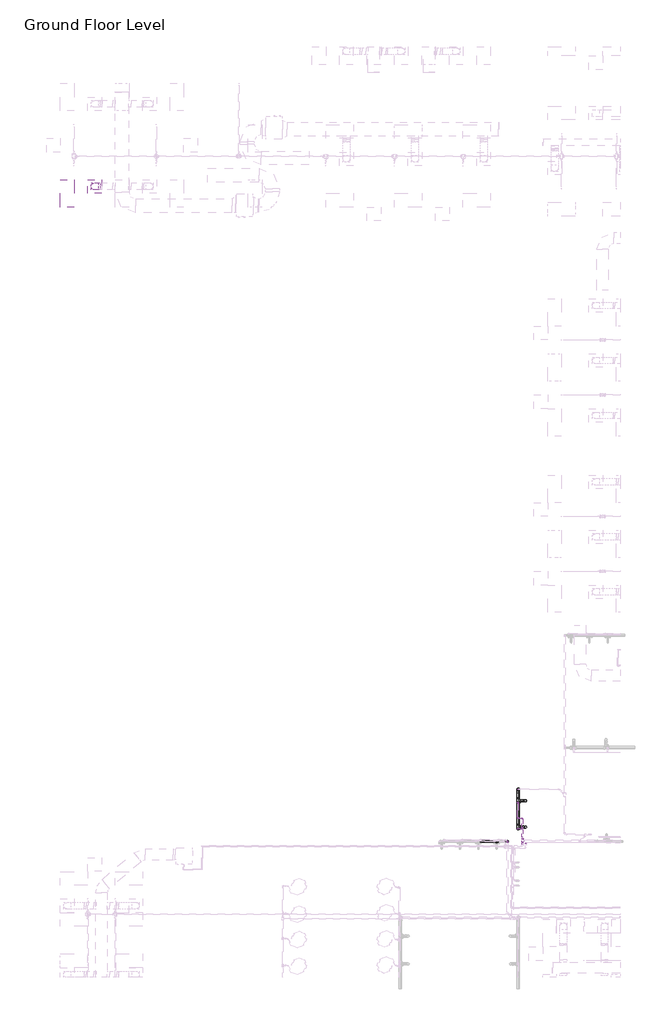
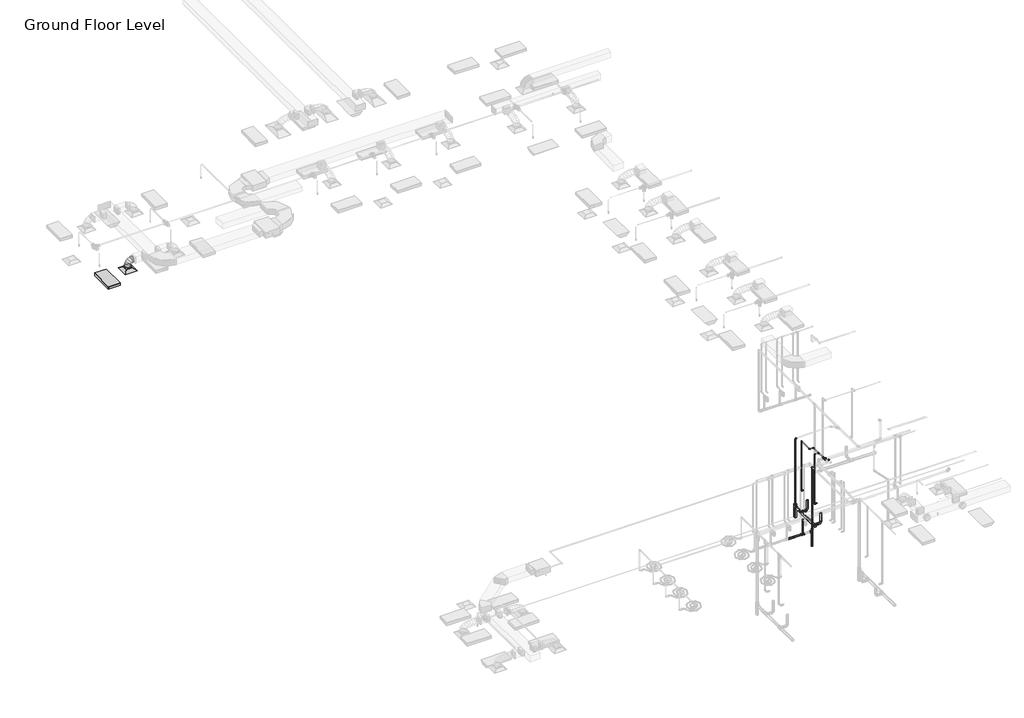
# One storey, part 9 of 66: 24 pipe segments, 23 pipe fittings, 1 air terminal, 1 duct fitting, 1 duct segment, 1 light fixture.
"""IFC4 building model written with IfcOpenShell, lengths in millimetres."""

from ifc_helpers import new_model, si_unit, point, frame, frame_2d, origin, place, context, project, spatial, circle_curve, ellipse_curve, trimmed, segment, composite_curve, outline, extrude, transform, mapped, element, save
from ifc_brep_helpers import plane_surface, cylinder_surface, advanced_brep
from components import m_return_diffuser_600_x_600_face_300_x_300_connection_ff221211, m_rectangular_to_round_transition_angle_45_degree_641efff0, m_troffer_light_parabolic_rectangular1_0600x1200mm_4_lamp_86473d4a, m_bend_pvc_sch_40_dwv_standard_a4b99d37, m_bend_pvc_sch_40_dwv_standard_1e7bdcc1, m_bend_pvc_sch_40_dwv_standard_877aed9a, m_bend_pvc_sch_40_dwv_standard_aca7b112, m_plug_pvc_sch_40_dwv_standard_6c40de1c, m_reducer_pvc_sch_40_dwv_standard_19331f3d, m_reducer_pvc_sch_40_dwv_standard_b84ad399, m_tee_reducing_sanitary_pvc_sch_40_dwv_standard_b49161a9, m_tee_reducing_sanitary_pvc_sch_40_dwv_standard_21d2848c, m_tee_reducing_sanitary_pvc_sch_40_dwv_standard_b574f8c1, m_tee_reducing_sanitary_pvc_sch_40_dwv_standard_749dcb00, standard_517a5a8d, standard_72b35c3b, standard_cd25fed3, standard_f1337950

model = new_model("IFC4")

# Units and contexts
model_context = context("Model", 3, world=origin())
ifc_project = project(units=[si_unit("LENGTHUNIT", "METRE", prefix="MILLI")], contexts=[model_context])

# Site, building, storey
site = spatial("IfcSite", under=ifc_project)
building = spatial("IfcBuilding", under=site)
storey = spatial("IfcBuildingStorey", under=building, Name="Ground Floor Level", Elevation=900.0)

# Air terminal
placement = place(None, origin())
m_return_diffuser_600_x_600_face_300_x_300_connection_shape = m_return_diffuser_600_x_600_face_300_x_300_connection_ff221211(model_context)
element("IfcAirTerminal", 1, ObjectType="M_Supply Diffuser : 600 x 600 Face 300 x 300 Connection", at=placement, inside=storey, context=model_context, shape_type="MappedRepresentation", body=[
    mapped(m_return_diffuser_600_x_600_face_300_x_300_connection_shape, transform((-19137.2327605, -4264.7846466, 3650.0), x_axis=(1.0, 0.0, 0.0), y_axis=(0.0, 1.0, 0.0), z_axis=(0.0, 0.0, 1.0))),
])

# Duct fitting
m_rectangular_to_round_transition_angle_45_degree_shape = m_rectangular_to_round_transition_angle_45_degree_641efff0(model_context)
element("IfcDuctFitting", 2, ObjectType="M_Rectangular to Round Transition - Angle : 45 Degree", at=placement, inside=storey, context=model_context, shape_type="MappedRepresentation", body=[
    mapped(m_rectangular_to_round_transition_angle_45_degree_shape, transform((-19137.2327605, -4264.7846466, 3751.6), x_axis=(0.0, 0.0, 1.0), y_axis=(-1.0, 0.0, 0.0), z_axis=(0.0, -1.0, 0.0))),
])

# Duct segment
element("IfcDuctSegment", 3, ObjectType="Flex - Round", at=placement, inside=storey, context=model_context, shape_type="AdvancedBrep", body=[
    advanced_brep(
    [(-18987.2327605, -4264.7846466, 3826.6), (-19137.2327605, -4414.7846466, 3826.6), (-19287.2327605, -4264.7846466, 3826.6), (-19137.2327605, -4114.7846466, 3826.6), (-18987.2327605, -4264.7846466, 3832.5806494), (-19137.2327605, -4414.7846466, 3854.3870846), (-19287.2327605, -4264.7846466, 3876.1935198), (-19137.2327605, -4114.7846466, 3854.3870846), (-18983.2864584, -4264.7846466, 3845.866521), (-19122.8954468, -4414.7846466, 3902.6559964), (-19262.5044353, -4264.7846466, 3959.4454718), (-19122.8954468, -4114.7846466, 3902.6559964), (-18960.1038556, -4264.7846466, 3889.9713348), (-19084.1273946, -4414.7846466, 3976.4120685), (-19208.1509336, -4264.7846466, 4062.8528022), (-19084.1273946, -4114.7846466, 3976.4120685), (-18929.3324827, -4264.7846466, 3924.1186367), (-19027.2944369, -4414.7846466, 4039.4801732), (-19125.2563911, -4264.7846466, 4154.8417097), (-19027.2944369, -4114.7846466, 4039.4801732), (-18889.6598286, -4264.7846466, 3949.5853148), (-18958.7624069, -4414.7846466, 4083.4722675), (-19027.8649852, -4264.7846466, 4217.3592203), (-18958.7624069, -4114.7846466, 4083.4722675), (-18888.6275862, -4264.7846466, 3950.0003085), (-18917.6510814, -4414.7846466, 4100.0003085), (-18946.6745767, -4264.7846466, 4250.0003085), (-18917.6510814, -4114.7846466, 4100.0003085), (-18884.8971378, -4264.7846466, 3950.0003085), (-18884.8971378, -4114.7846466, 4100.0003085), (-18884.8971378, -4264.7846466, 4250.0003085), (-18884.8971378, -4414.7846466, 4100.0003085)],
    [
        (0, 1, circle_curve(frame((-19137.2327605, -4264.7846466, 3826.6), z_axis=(0.0, 0.0, -1.0), x_axis=(1.0, 0.0, 0.0)), 150.0)),
        (1, 2, circle_curve(frame((-19137.2327605, -4264.7846466, 3826.6), z_axis=(0.0, 0.0, -1.0), x_axis=(1.0, 0.0, 0.0)), 150.0)),
        (2, 3, circle_curve(frame((-19137.2327605, -4264.7846466, 3826.6), z_axis=(0.0, 0.0, -1.0), x_axis=(1.0, 0.0, 0.0)), 150.0)),
        (3, 0, circle_curve(frame((-19137.2327605, -4264.7846466, 3826.6), z_axis=(0.0, 0.0, -1.0), x_axis=(1.0, 0.0, 0.0)), 150.0)),
        (0, 4),
        (4, 5, ellipse_curve(frame((-19137.2327605, -4264.7846466, 3854.3870846), z_axis=(-0.14386395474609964, 0.0, -0.9895974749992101), x_axis=(0.9895974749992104, 0.0, -0.14386395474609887)), 151.5767813, 150.0)),
        (5, 1),
        (5, 6, ellipse_curve(frame((-19137.2327605, -4264.7846466, 3854.3870846), z_axis=(-0.14386395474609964, 0.0, -0.9895974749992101), x_axis=(0.9895974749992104, 0.0, -0.14386395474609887)), 151.5767813, 150.0)),
        (6, 2),
        (6, 7, ellipse_curve(frame((-19137.2327605, -4264.7846466, 3854.3870846), z_axis=(-0.14386395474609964, 0.0, -0.9895974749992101), x_axis=(0.9895974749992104, 0.0, -0.14386395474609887)), 151.5767813, 150.0)),
        (7, 3),
        (7, 4, ellipse_curve(frame((-19137.2327605, -4264.7846466, 3854.3870846), z_axis=(-0.14386395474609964, 0.0, -0.9895974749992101), x_axis=(0.9895974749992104, 0.0, -0.14386395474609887)), 151.5767813, 150.0)),
        (4, 8),
        (8, 9, ellipse_curve(frame((-19122.8954468, -4264.7846466, 3902.6559964), z_axis=(-0.376794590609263, 0.0, -0.9262968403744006), x_axis=(0.9262968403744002, 0.0, -0.37679459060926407)), 150.717332, 150.0)),
        (9, 5),
        (9, 10, ellipse_curve(frame((-19122.8954468, -4264.7846466, 3902.6559964), z_axis=(-0.376794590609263, 0.0, -0.9262968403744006), x_axis=(0.9262968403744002, 0.0, -0.37679459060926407)), 150.717332, 150.0)),
        (10, 6),
        (10, 11, ellipse_curve(frame((-19122.8954468, -4264.7846466, 3902.6559964), z_axis=(-0.376794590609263, 0.0, -0.9262968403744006), x_axis=(0.9262968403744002, 0.0, -0.37679459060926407)), 150.717332, 150.0)),
        (11, 7),
        (11, 8, ellipse_curve(frame((-19122.8954468, -4264.7846466, 3902.6559964), z_axis=(-0.376794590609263, 0.0, -0.9262968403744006), x_axis=(0.9262968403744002, 0.0, -0.37679459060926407)), 150.717332, 150.0)),
        (8, 12),
        (12, 13, ellipse_curve(frame((-19084.1273946, -4264.7846466, 3976.4120685), z_axis=(-0.5717930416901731, 0.0, -0.8203979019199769), x_axis=(0.8203979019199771, 0.0, -0.5717930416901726)), 151.1748612, 150.0)),
        (13, 9),
        (13, 14, ellipse_curve(frame((-19084.1273946, -4264.7846466, 3976.4120685), z_axis=(-0.5717930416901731, 0.0, -0.8203979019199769), x_axis=(0.8203979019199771, 0.0, -0.5717930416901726)), 151.1748612, 150.0)),
        (14, 10),
        (14, 15, ellipse_curve(frame((-19084.1273946, -4264.7846466, 3976.4120685), z_axis=(-0.5717930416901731, 0.0, -0.8203979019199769), x_axis=(0.8203979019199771, 0.0, -0.5717930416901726)), 151.1748612, 150.0)),
        (15, 11),
        (15, 12, ellipse_curve(frame((-19084.1273946, -4264.7846466, 3976.4120685), z_axis=(-0.5717930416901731, 0.0, -0.8203979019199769), x_axis=(0.8203979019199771, 0.0, -0.5717930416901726)), 151.1748612, 150.0)),
        (12, 16),
        (16, 17, ellipse_curve(frame((-19027.2944369, -4264.7846466, 4039.4801732), z_axis=(-0.7622501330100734, 0.0, -0.6472825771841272), x_axis=(0.6472825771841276, 0.0, -0.7622501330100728)), 151.3434127, 150.0)),
        (17, 13),
        (17, 18, ellipse_curve(frame((-19027.2944369, -4264.7846466, 4039.4801732), z_axis=(-0.7622501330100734, 0.0, -0.6472825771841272), x_axis=(0.6472825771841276, 0.0, -0.7622501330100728)), 151.3434127, 150.0)),
        (18, 14),
        (18, 19, ellipse_curve(frame((-19027.2944369, -4264.7846466, 4039.4801732), z_axis=(-0.7622501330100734, 0.0, -0.6472825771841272), x_axis=(0.6472825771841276, 0.0, -0.7622501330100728)), 151.3434127, 150.0)),
        (19, 15),
        (19, 16, ellipse_curve(frame((-19027.2944369, -4264.7846466, 4039.4801732), z_axis=(-0.7622501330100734, 0.0, -0.6472825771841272), x_axis=(0.6472825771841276, 0.0, -0.7622501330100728)), 151.3434127, 150.0)),
        (16, 20),
        (20, 21, ellipse_curve(frame((-18958.7624069, -4264.7846466, 4083.4722675), z_axis=(-0.8886216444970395, 0.0, -0.45864100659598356), x_axis=(0.45864100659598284, 0.0, -0.88862164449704)), 150.6681202, 150.0)),
        (21, 17),
        (21, 22, ellipse_curve(frame((-18958.7624069, -4264.7846466, 4083.4722675), z_axis=(-0.8886216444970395, 0.0, -0.45864100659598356), x_axis=(0.45864100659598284, 0.0, -0.88862164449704)), 150.6681202, 150.0)),
        (22, 18),
        (22, 23, ellipse_curve(frame((-18958.7624069, -4264.7846466, 4083.4722675), z_axis=(-0.8886216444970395, 0.0, -0.45864100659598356), x_axis=(0.45864100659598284, 0.0, -0.88862164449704)), 150.6681202, 150.0)),
        (23, 19),
        (23, 20, ellipse_curve(frame((-18958.7624069, -4264.7846466, 4083.4722675), z_axis=(-0.8886216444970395, 0.0, -0.45864100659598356), x_axis=(0.45864100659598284, 0.0, -0.88862164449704)), 150.6681202, 150.0)),
        (20, 24),
        (24, 25, ellipse_curve(frame((-18917.6510814, -4264.7846466, 4100.0003085), z_axis=(-0.9817905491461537, 0.0, -0.18996662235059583), x_axis=(0.18996662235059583, 0.0, -0.9817905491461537)), 152.7820777, 150.0)),
        (25, 21),
        (25, 26, ellipse_curve(frame((-18917.6510814, -4264.7846466, 4100.0003085), z_axis=(-0.9817905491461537, 0.0, -0.18996662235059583), x_axis=(0.18996662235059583, 0.0, -0.9817905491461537)), 152.7820777, 150.0)),
        (26, 22),
        (26, 27, ellipse_curve(frame((-18917.6510814, -4264.7846466, 4100.0003085), z_axis=(-0.9817905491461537, 0.0, -0.18996662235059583), x_axis=(0.18996662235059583, 0.0, -0.9817905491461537)), 152.7820777, 150.0)),
        (27, 23),
        (27, 24, ellipse_curve(frame((-18917.6510814, -4264.7846466, 4100.0003085), z_axis=(-0.9817905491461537, 0.0, -0.18996662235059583), x_axis=(0.18996662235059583, 0.0, -0.9817905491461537)), 152.7820777, 150.0)),
        (28, 29, circle_curve(frame((-18884.8971378, -4264.7846466, 4100.0003085), z_axis=(1.0, 0.0, 0.0), x_axis=(0.0, 0.0, -1.0)), 150.0)),
        (29, 30, circle_curve(frame((-18884.8971378, -4264.7846466, 4100.0003085), z_axis=(1.0, 0.0, 0.0), x_axis=(0.0, 0.0, -1.0)), 150.0)),
        (30, 31, circle_curve(frame((-18884.8971378, -4264.7846466, 4100.0003085), z_axis=(1.0, 0.0, 0.0), x_axis=(0.0, 0.0, -1.0)), 150.0)),
        (31, 28, circle_curve(frame((-18884.8971378, -4264.7846466, 4100.0003085), z_axis=(1.0, 0.0, 0.0), x_axis=(0.0, 0.0, -1.0)), 150.0)),
        (24, 28),
        (31, 25),
        (30, 26),
        (29, 27),
    ],
    [
        plane_surface(frame((-19137.2327605, -4414.7846466, 3826.6), z_axis=(0.0, 0.0, -1.0), x_axis=(1.0, 0.0, 0.0))),
        cylinder_surface(frame((-19137.2327605, -4264.7846466, 3826.6), z_axis=(0.0, 0.0, -1.0), x_axis=(1.0, 0.0, 0.0)), 150.0),
        cylinder_surface(frame((-19137.2327605, -4264.7846466, 3854.3870846), z_axis=(-0.28473481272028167, 0.0, -0.9586063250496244), x_axis=(0.9586063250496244, 0.0, -0.28473481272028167)), 150.0),
        cylinder_surface(frame((-19122.8954468, -4264.7846466, 3902.6559964), z_axis=(-0.4652676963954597, 0.0, -0.8851700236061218), x_axis=(0.8851700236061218, 0.0, -0.4652676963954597)), 150.0),
        cylinder_surface(frame((-19084.1273946, -4264.7846466, 3976.4120685), z_axis=(-0.6694309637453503, 0.0, -0.7428742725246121), x_axis=(0.7428742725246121, 0.0, -0.6694309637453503)), 150.0),
        cylinder_surface(frame((-19027.2944369, -4264.7846466, 4039.4801732), z_axis=(-0.8415369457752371, 0.0, -0.5401995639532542), x_axis=(0.5401995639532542, 0.0, -0.8415369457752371)), 150.0),
        cylinder_surface(frame((-18958.7624069, -4264.7846466, 4083.4722675), z_axis=(-0.9278253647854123, 0.0, -0.37301486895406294), x_axis=(0.37301486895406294, 0.0, -0.9278253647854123)), 150.0),
        plane_surface(frame((-18884.8971378, -4264.7846466, 3950.0003085), z_axis=(1.0, 0.0, 0.0), x_axis=(0.0, 1.0, 0.0))),
        cylinder_surface(frame((-18917.6510814, -4264.7846466, 4100.0003085), z_axis=(-1.0, 0.0, 0.0), x_axis=(0.0, 0.0, -1.0)), 150.0),
    ],
    [
        (0, [[1, 2, 3, 4]]),
        (1, [[-1, 5, 6, 7]]),
        (1, [[-2, -7, 8, 9]]),
        (1, [[-3, -9, 10, 11]]),
        (1, [[-4, -11, 12, -5]]),
        (2, [[-6, 13, 14, 15]]),
        (2, [[-8, -15, 16, 17]]),
        (2, [[-10, -17, 18, 19]]),
        (2, [[-12, -19, 20, -13]]),
        (3, [[-14, 21, 22, 23]]),
        (3, [[-16, -23, 24, 25]]),
        (3, [[-18, -25, 26, 27]]),
        (3, [[-20, -27, 28, -21]]),
        (4, [[-22, 29, 30, 31]]),
        (4, [[-24, -31, 32, 33]]),
        (4, [[-26, -33, 34, 35]]),
        (4, [[-28, -35, 36, -29]]),
        (5, [[-30, 37, 38, 39]]),
        (5, [[-32, -39, 40, 41]]),
        (5, [[-34, -41, 42, 43]]),
        (5, [[-36, -43, 44, -37]]),
        (6, [[-38, 45, 46, 47]]),
        (6, [[-40, -47, 48, 49]]),
        (6, [[-42, -49, 50, 51]]),
        (6, [[-44, -51, 52, -45]]),
        (7, [[53, 54, 55, 56]]),
        (8, [[-46, 57, -56, 58]]),
        (8, [[-48, -58, -55, 59]]),
        (8, [[-50, -59, -54, 60]]),
        (8, [[-52, -60, -53, -57]]),
    ],
),
])

# Light fixture
m_troffer_light_parabolic_rectangular1_0600x1200mm_4_lamp_shape = m_troffer_light_parabolic_rectangular1_0600x1200mm_4_lamp_86473d4a(model_context)
element("IfcLightFixture", 4, ObjectType="M_Troffer Light - Parabolic Rectangular1 : 0600x1200mm(4 Lamp) - 277V 2", at=placement, inside=storey, context=model_context, shape_type="MappedRepresentation", body=[
    mapped(m_troffer_light_parabolic_rectangular1_0600x1200mm_4_lamp_shape, transform((-20396.6986926, -4546.081145, 3650.0), x_axis=(0.0, 1.0, 0.0), y_axis=(-1.0, 0.0, 0.0), z_axis=(0.0, 0.0, 1.0))),
])

# Pipe fittings
m_bend_pvc_sch_40_dwv_standard_shape = m_bend_pvc_sch_40_dwv_standard_a4b99d37(model_context)
element("IfcPipeFitting", 5, ObjectType="M_Bend - PVC - Sch 40 - DWV : Standard", at=placement, inside=storey, context=model_context, shape_type="MappedRepresentation", body=[
    mapped(m_bend_pvc_sch_40_dwv_standard_shape, transform((-313.6900632, -31081.5465789, 464.3982101), x_axis=(0.0, 0.0, -1.0), y_axis=(-1.0, 0.0, 0.0), z_axis=(0.0, 1.0, 0.0))),
])
element("IfcPipeFitting", 6, ObjectType="M_Bend - PVC - Sch 40 - DWV : Standard", at=placement, inside=storey, context=model_context, shape_type="MappedRepresentation", body=[
    mapped(m_bend_pvc_sch_40_dwv_standard_shape, transform((-303.6900633, -32234.266625, 475.9254106), x_axis=(0.0, 0.0, -1.0), y_axis=(-1.0, 0.0, 0.0), z_axis=(0.0, 1.0, 0.0))),
])
m_bend_pvc_sch_40_dwv_standard_2_shape = m_bend_pvc_sch_40_dwv_standard_1e7bdcc1(model_context)
element("IfcPipeFitting", 7, ObjectType="M_Bend - PVC - Sch 40 - DWV : Standard", at=placement, inside=storey, context=model_context, shape_type="MappedRepresentation", body=[
    mapped(m_bend_pvc_sch_40_dwv_standard_2_shape, transform((-1573.215321, -32858.7119065, 1488.3035905), x_axis=(0.0, 0.9999500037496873, -0.009999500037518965), y_axis=(0.0, -0.009999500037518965, -0.9999500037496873), z_axis=(-1.0, 0.0, 0.0))),
])
m_bend_pvc_sch_40_dwv_standard_3_shape = m_bend_pvc_sch_40_dwv_standard_877aed9a(model_context)
element("IfcPipeFitting", 8, ObjectType="M_Bend - PVC - Sch 40 - DWV : Standard", at=placement, inside=storey, context=model_context, shape_type="MappedRepresentation", body=[
    mapped(m_bend_pvc_sch_40_dwv_standard_3_shape, transform((-1099.4034743, -32858.7119242, 4127.038), x_axis=(0.0, 0.0, 1.0), y_axis=(0.0, -1.0, 0.0), z_axis=(1.0, 0.0, 0.0))),
])
m_bend_pvc_sch_40_dwv_standard_4_shape = m_bend_pvc_sch_40_dwv_standard_aca7b112(model_context)
element("IfcPipeFitting", 9, ObjectType="M_Bend - PVC - Sch 40 - DWV : Standard", at=placement, inside=storey, context=model_context, shape_type="MappedRepresentation", body=[
    mapped(m_bend_pvc_sch_40_dwv_standard_4_shape, transform((-633.5363684, -30581.7541446, 4084.0463877), x_axis=(0.0, 0.0, 1.0), y_axis=(1.0, 0.0, 0.0), z_axis=(0.0, 1.0, 0.0))),
])
m_plug_pvc_sch_40_dwv_standard_shape = m_plug_pvc_sch_40_dwv_standard_6c40de1c(model_context)
element("IfcPipeFitting", 10, ObjectType="M_Plug - PVC - Sch 40 - DWV : Standard", at=placement, inside=storey, context=model_context, shape_type="MappedRepresentation", body=[
    mapped(m_plug_pvc_sch_40_dwv_standard_shape, transform((-633.5600391, -32323.1621803, 476.8143661), x_axis=(0.0, -0.9999500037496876, 0.009999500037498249), y_axis=(1.0000000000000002, 0.0, 0.0), z_axis=(0.0, 0.009999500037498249, 0.9999500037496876))),
])
m_reducer_pvc_sch_40_dwv_standard_shape = m_reducer_pvc_sch_40_dwv_standard_19331f3d(model_context)
element("IfcPipeFitting", 11, ObjectType="M_Reducer - PVC - Sch 40 - DWV : Standard", at=placement, inside=storey, context=model_context, shape_type="MappedRepresentation", body=[
    mapped(m_reducer_pvc_sch_40_dwv_standard_shape, transform((-633.5600391, -30581.725568, 578.5642409), x_axis=(0.0, 0.0, 1.0), y_axis=(0.0, 1.0, 0.0), z_axis=(-1.0, 0.0, 0.0))),
])
m_reducer_pvc_sch_40_dwv_standard_2_shape = m_reducer_pvc_sch_40_dwv_standard_b84ad399(model_context)
element("IfcPipeFitting", 12, ObjectType="M_Reducer - PVC - Sch 40 - DWV : Standard", at=placement, inside=storey, context=model_context, shape_type="MappedRepresentation", body=[
    mapped(m_reducer_pvc_sch_40_dwv_standard_2_shape, transform((-1099.4034743, -32858.6819272, 783.2824384), x_axis=(0.0, 0.0, 1.0), y_axis=(-1.0, 0.0, 0.0), z_axis=(0.0, -1.0, 0.0))),
])
m_tee_reducing_sanitary_pvc_sch_40_dwv_standard_shape = m_tee_reducing_sanitary_pvc_sch_40_dwv_standard_b49161a9(model_context)
element("IfcPipeFitting", 13, ObjectType="M_Tee Reducing Sanitary - PVC - Sch 40 - DWV : Standard", at=placement, inside=storey, context=model_context, shape_type="MappedRepresentation", body=[
    mapped(m_tee_reducing_sanitary_pvc_sch_40_dwv_standard_shape, transform((-633.5600391, -31081.5465789, 464.3982101), x_axis=(0.0, -0.9999500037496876, 0.009999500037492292), y_axis=(-1.0, 0.0, 0.0), z_axis=(0.0, -0.009999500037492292, -0.9999500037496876))),
])
element("IfcPipeFitting", 14, ObjectType="M_Tee Reducing Sanitary - PVC - Sch 40 - DWV : Standard", at=placement, inside=storey, context=model_context, shape_type="MappedRepresentation", body=[
    mapped(m_tee_reducing_sanitary_pvc_sch_40_dwv_standard_shape, transform((-633.5600391, -32234.266625, 475.9254106), x_axis=(0.0, -0.9999500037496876, 0.009999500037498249), y_axis=(-1.0000000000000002, 0.0, 0.0), z_axis=(0.0, -0.009999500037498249, -0.9999500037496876))),
])
m_tee_reducing_sanitary_pvc_sch_40_dwv_standard_2_shape = m_tee_reducing_sanitary_pvc_sch_40_dwv_standard_21d2848c(model_context)
element("IfcPipeFitting", 15, ObjectType="M_Tee Reducing Sanitary - PVC - Sch 40 - DWV : Standard", at=placement, inside=storey, context=model_context, shape_type="MappedRepresentation", body=[
    mapped(m_tee_reducing_sanitary_pvc_sch_40_dwv_standard_2_shape, transform((-1573.215321, -32858.7119065, 694.4349821), x_axis=(-0.9999500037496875, 0.0, 0.009999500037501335), y_axis=(-0.009999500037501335, 0.0, -0.9999500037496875), z_axis=(0.0, -1.0, 0.0))),
])
m_tee_reducing_sanitary_pvc_sch_40_dwv_standard_3_shape = m_tee_reducing_sanitary_pvc_sch_40_dwv_standard_b574f8c1(model_context)
element("IfcPipeFitting", 16, ObjectType="M_Tee Reducing Sanitary - PVC - Sch 40 - DWV : Standard", at=placement, inside=storey, context=model_context, shape_type="MappedRepresentation", body=[
    mapped(m_tee_reducing_sanitary_pvc_sch_40_dwv_standard_3_shape, transform((-1099.4034743, -32858.6819272, 689.7), x_axis=(0.0, 0.0, 1.0), y_axis=(1.0, 0.0, 0.0), z_axis=(0.0, 1.0, 0.0))),
])
m_tee_reducing_sanitary_pvc_sch_40_dwv_standard_4_shape = m_tee_reducing_sanitary_pvc_sch_40_dwv_standard_749dcb00(model_context)
element("IfcPipeFitting", 17, ObjectType="M_Tee Reducing Sanitary - PVC - Sch 40 - DWV : Standard", at=placement, inside=storey, context=model_context, shape_type="MappedRepresentation", body=[
    mapped(m_tee_reducing_sanitary_pvc_sch_40_dwv_standard_4_shape, transform((-633.5600391, -30581.725568, 459.4), x_axis=(0.0, 0.0, 1.0), y_axis=(0.0, 1.0, 0.0), z_axis=(-1.0, 0.0, 0.0))),
])
standard_shape = standard_517a5a8d(model_context)
element("IfcPipeFitting", 18, ObjectType="M_Elbow - CPVC - Sch 40 : Standard", at=placement, inside=storey, context=model_context, shape_type="MappedRepresentation", body=[
    mapped(standard_shape, transform((-647.2327605, -31154.9853451, 1655.0), x_axis=(-1.0, 0.0, 0.0), y_axis=(0.0, 0.0, 1.0), z_axis=(0.0, 1.0, 0.0))),
])
element("IfcPipeFitting", 19, ObjectType="M_Elbow - CPVC - Sch 40 : Standard", at=placement, inside=storey, context=model_context, shape_type="MappedRepresentation", body=[
    mapped(standard_shape, transform((-647.2327605, -31154.9853451, 4300.0), x_axis=(0.0, 0.0, 1.0), y_axis=(0.0, -1.0, 0.0), z_axis=(1.0, 0.0, 0.0))),
])
element("IfcPipeFitting", 20, ObjectType="M_Elbow - CPVC - Sch 40 : Standard", at=placement, inside=storey, context=model_context, shape_type="MappedRepresentation", body=[
    mapped(standard_shape, transform((-647.2327605, -31854.9853451, 4300.0), x_axis=(0.0, -1.0, 0.0), y_axis=(1.0, 0.0, 0.0), z_axis=(0.0, 0.0, 1.0))),
])
element("IfcPipeFitting", 21, ObjectType="M_Elbow - CPVC - Sch 40 : Standard", at=placement, inside=storey, context=model_context, shape_type="MappedRepresentation", body=[
    mapped(standard_shape, transform((-447.2327605, -31854.9853451, 4300.0), x_axis=(0.0, 1.0, 0.0), y_axis=(-1.0, 0.0, 0.0), z_axis=(0.0, 0.0, 1.0))),
])
element("IfcPipeFitting", 22, ObjectType="M_Elbow - CPVC - Sch 40 : Standard", at=placement, inside=storey, context=model_context, shape_type="MappedRepresentation", body=[
    mapped(standard_shape, transform((-657.2327605, -32307.7053912, 1655.0), x_axis=(-1.0, 0.0, 0.0), y_axis=(0.0, 0.0, 1.0), z_axis=(0.0, 1.0, 0.0))),
])
element("IfcPipeFitting", 23, ObjectType="M_Elbow - CPVC - Sch 40 : Standard", at=placement, inside=storey, context=model_context, shape_type="MappedRepresentation", body=[
    mapped(standard_shape, transform((-657.2327605, -32307.7053912, 4300.0), x_axis=(0.0, 0.0, 1.0), y_axis=(1.0, 0.0, 0.0), z_axis=(0.0, 1.0, 0.0))),
])
element("IfcPipeFitting", 24, ObjectType="M_Elbow - CPVC - Sch 40 : Standard", at=placement, inside=storey, context=model_context, shape_type="MappedRepresentation", body=[
    mapped(standard_shape, transform((-299.4424198, -32905.870708, 4250.0), x_axis=(-1.0, 0.0, 0.0), y_axis=(0.0, -1.0, 0.0), z_axis=(0.0, 0.0, 1.0))),
])
standard_2_shape = standard_72b35c3b(model_context)
element("IfcPipeFitting", 25, ObjectType="M_Tee - CPVC - Sch 40 : Standard", at=placement, inside=storey, context=model_context, shape_type="MappedRepresentation", body=[
    mapped(standard_2_shape, transform((-447.2327605, -32307.7053912, 4300.0), x_axis=(0.0, 1.0, 0.0), y_axis=(1.0, 0.0, 0.0), z_axis=(0.0, 0.0, -1.0))),
])
standard_3_shape = standard_cd25fed3(model_context)
element("IfcPipeFitting", 26, ObjectType="M_Tee - CPVC - Sch 40 : Standard", at=placement, inside=storey, context=model_context, shape_type="MappedRepresentation", body=[
    mapped(standard_3_shape, transform((-447.2327605, -32824.9853451, 4300.0), x_axis=(0.0, -1.0, 0.0), y_axis=(-1.0, 0.0, 0.0), z_axis=(0.0, 0.0, -1.0))),
])
standard_4_shape = standard_f1337950(model_context)
element("IfcPipeFitting", 27, ObjectType="M_Coupling Reducing - CPVC - Sch 40 : Standard", at=placement, inside=storey, context=model_context, shape_type="MappedRepresentation", body=[
    mapped(standard_4_shape, transform((-447.2327605, -32758.3103451, 4300.0), x_axis=(0.0, 1.0, 0.0), y_axis=(-1.0, 0.0, 0.0), z_axis=(0.0, 0.0, 1.0))),
])

# Pipe segments
element("IfcPipeSegment", 28, ObjectType="CPVC", at=placement, inside=storey, context=model_context, shape_type="SweptSolid", body=[
    extrude(outline(composite_curve([segment(trimmed(circle_curve(frame_2d((-31154.9853451, 1655.0)), 16.7005), [point((-31138.2848451, 1655.0))], [point((-31154.9853451, 1638.2995))], False, "CARTESIAN"), True, "CONTINUOUS"), segment(trimmed(circle_curve(frame_2d((-31154.9853451, 1655.0)), 16.7005), [point((-31154.9853451, 1638.2995))], [point((-31171.6858451, 1655.0))], False, "CARTESIAN"), True, "CONTINUOUS"), segment(trimmed(circle_curve(frame_2d((-31154.9853451, 1655.0)), 16.7005), [point((-31171.6858451, 1655.0))], [point((-31154.9853451, 1671.7005))], False, "CARTESIAN"), True, "CONTINUOUS"), segment(trimmed(circle_curve(frame_2d((-31154.9853451, 1655.0)), 16.7005), [point((-31154.9853451, 1671.7005))], [point((-31138.2848451, 1655.0))], False, "CARTESIAN"), True, "CONTINUOUS")], self_intersect=False)), frame((-603.9702105, 0.0, 0.0), z_axis=(1.0, 0.0, 0.0), x_axis=(0.0, 1.0, 0.0)), (0.0, 0.0, 1.0), 56.73745),
])
element("IfcPipeSegment", 29, ObjectType="CPVC", at=placement, inside=storey, context=model_context, shape_type="SweptSolid", body=[
    extrude(outline(composite_curve([segment(trimmed(circle_curve(frame_2d((4300.0, -647.2327605)), 16.7005), [point((4300.0, -663.9332605))], [point((4283.2995, -647.2327605))], False, "CARTESIAN"), True, "CONTINUOUS"), segment(trimmed(circle_curve(frame_2d((4300.0, -647.2327605)), 16.7005), [point((4283.2995, -647.2327605))], [point((4300.0, -630.5322605))], False, "CARTESIAN"), True, "CONTINUOUS"), segment(trimmed(circle_curve(frame_2d((4300.0, -647.2327605)), 16.7005), [point((4300.0, -630.5322605))], [point((4316.7005, -647.2327605))], False, "CARTESIAN"), True, "CONTINUOUS"), segment(trimmed(circle_curve(frame_2d((4300.0, -647.2327605)), 16.7005), [point((4316.7005, -647.2327605))], [point((4300.0, -663.9332605))], False, "CARTESIAN"), True, "CONTINUOUS")], self_intersect=False)), frame((0.0, -31811.7227951, 0.0), z_axis=(0.0, 1.0, 0.0), x_axis=(0.0, 0.0, 1.0)), (0.0, 0.0, 1.0), 613.4749),
])
element("IfcPipeSegment", 30, ObjectType="CPVC", at=placement, inside=storey, context=model_context, shape_type="SweptSolid", body=[
    extrude(outline(composite_curve([segment(trimmed(circle_curve(frame_2d((-647.2327605, -31154.9853451)), 16.7005), [point((-663.9332605, -31154.9853451))], [point((-647.2327605, -31138.2848451))], False, "CARTESIAN"), True, "CONTINUOUS"), segment(trimmed(circle_curve(frame_2d((-647.2327605, -31154.9853451)), 16.7005), [point((-647.2327605, -31138.2848451))], [point((-630.5322605, -31154.9853451))], False, "CARTESIAN"), True, "CONTINUOUS"), segment(trimmed(circle_curve(frame_2d((-647.2327605, -31154.9853451)), 16.7005), [point((-630.5322605, -31154.9853451))], [point((-647.2327605, -31171.6858451))], False, "CARTESIAN"), True, "CONTINUOUS"), segment(trimmed(circle_curve(frame_2d((-647.2327605, -31154.9853451)), 16.7005), [point((-647.2327605, -31171.6858451))], [point((-663.9332605, -31154.9853451))], False, "CARTESIAN"), True, "CONTINUOUS")], self_intersect=False)), frame((0.0, 0.0, 1698.26255), z_axis=(0.0, 0.0, 1.0), x_axis=(1.0, 0.0, 0.0)), (0.0, 0.0, 1.0), 2558.4749),
])
element("IfcPipeSegment", 31, ObjectType="CPVC", at=placement, inside=storey, context=model_context, shape_type="SweptSolid", body=[
    extrude(outline(composite_curve([segment(trimmed(circle_curve(frame_2d((-31854.9853451, 4300.0)), 16.7005), [point((-31871.6858451, 4300.0))], [point((-31854.9853451, 4316.7005))], False, "CARTESIAN"), True, "CONTINUOUS"), segment(trimmed(circle_curve(frame_2d((-31854.9853451, 4300.0)), 16.7005), [point((-31854.9853451, 4316.7005))], [point((-31838.2848451, 4300.0))], False, "CARTESIAN"), True, "CONTINUOUS"), segment(trimmed(circle_curve(frame_2d((-31854.9853451, 4300.0)), 16.7005), [point((-31838.2848451, 4300.0))], [point((-31854.9853451, 4283.2995))], False, "CARTESIAN"), True, "CONTINUOUS"), segment(trimmed(circle_curve(frame_2d((-31854.9853451, 4300.0)), 16.7005), [point((-31854.9853451, 4283.2995))], [point((-31871.6858451, 4300.0))], False, "CARTESIAN"), True, "CONTINUOUS")], self_intersect=False)), frame((-603.9702105, 0.0, 0.0), z_axis=(1.0, 0.0, 0.0), x_axis=(0.0, 1.0, 0.0)), (0.0, 0.0, 1.0), 113.4749),
])
element("IfcPipeSegment", 32, ObjectType="CPVC", at=placement, inside=storey, context=model_context, shape_type="SweptSolid", body=[
    extrude(outline(composite_curve([segment(trimmed(circle_curve(frame_2d((4300.0, -447.2327605)), 16.7005), [point((4300.0, -463.9332605))], [point((4283.2995, -447.2327605))], False, "CARTESIAN"), True, "CONTINUOUS"), segment(trimmed(circle_curve(frame_2d((4300.0, -447.2327605)), 16.7005), [point((4283.2995, -447.2327605))], [point((4300.0, -430.5322605))], False, "CARTESIAN"), True, "CONTINUOUS"), segment(trimmed(circle_curve(frame_2d((4300.0, -447.2327605)), 16.7005), [point((4300.0, -430.5322605))], [point((4316.7005, -447.2327605))], False, "CARTESIAN"), True, "CONTINUOUS"), segment(trimmed(circle_curve(frame_2d((4300.0, -447.2327605)), 16.7005), [point((4316.7005, -447.2327605))], [point((4300.0, -463.9332605))], False, "CARTESIAN"), True, "CONTINUOUS")], self_intersect=False)), frame((0.0, -32678.5114701, 0.0), z_axis=(0.0, 1.0, 0.0), x_axis=(0.0, 0.0, 1.0)), (0.0, 0.0, 1.0), 331.1058789),
])
element("IfcPipeSegment", 33, ObjectType="CPVC", at=placement, inside=storey, context=model_context, shape_type="SweptSolid", body=[
    extrude(outline(composite_curve([segment(trimmed(circle_curve(frame_2d((-32307.7053912, 1655.0)), 16.7005), [point((-32291.0048912, 1655.0))], [point((-32307.7053912, 1638.2995))], False, "CARTESIAN"), True, "CONTINUOUS"), segment(trimmed(circle_curve(frame_2d((-32307.7053912, 1655.0)), 16.7005), [point((-32307.7053912, 1638.2995))], [point((-32324.4058912, 1655.0))], False, "CARTESIAN"), True, "CONTINUOUS"), segment(trimmed(circle_curve(frame_2d((-32307.7053912, 1655.0)), 16.7005), [point((-32324.4058912, 1655.0))], [point((-32307.7053912, 1671.7005))], False, "CARTESIAN"), True, "CONTINUOUS"), segment(trimmed(circle_curve(frame_2d((-32307.7053912, 1655.0)), 16.7005), [point((-32307.7053912, 1671.7005))], [point((-32291.0048912, 1655.0))], False, "CARTESIAN"), True, "CONTINUOUS")], self_intersect=False)), frame((-613.9702105, 0.0, 0.0), z_axis=(1.0, 0.0, 0.0), x_axis=(0.0, 1.0, 0.0)), (0.0, 0.0, 1.0), 76.73745),
])
element("IfcPipeSegment", 34, ObjectType="CPVC", at=placement, inside=storey, context=model_context, shape_type="SweptSolid", body=[
    extrude(outline(composite_curve([segment(trimmed(circle_curve(frame_2d((-32307.7053912, 4300.0)), 16.7005), [point((-32291.0048912, 4300.0))], [point((-32307.7053912, 4283.2995))], False, "CARTESIAN"), True, "CONTINUOUS"), segment(trimmed(circle_curve(frame_2d((-32307.7053912, 4300.0)), 16.7005), [point((-32307.7053912, 4283.2995))], [point((-32324.4058912, 4300.0))], False, "CARTESIAN"), True, "CONTINUOUS"), segment(trimmed(circle_curve(frame_2d((-32307.7053912, 4300.0)), 16.7005), [point((-32324.4058912, 4300.0))], [point((-32307.7053912, 4316.7005))], False, "CARTESIAN"), True, "CONTINUOUS"), segment(trimmed(circle_curve(frame_2d((-32307.7053912, 4300.0)), 16.7005), [point((-32307.7053912, 4316.7005))], [point((-32291.0048912, 4300.0))], False, "CARTESIAN"), True, "CONTINUOUS")], self_intersect=False)), frame((-613.9702105, 0.0, 0.0), z_axis=(1.0, 0.0, 0.0), x_axis=(0.0, 1.0, 0.0)), (0.0, 0.0, 1.0), 127.03725),
])
element("IfcPipeSegment", 35, ObjectType="CPVC", at=placement, inside=storey, context=model_context, shape_type="SweptSolid", body=[
    extrude(outline(composite_curve([segment(trimmed(circle_curve(frame_2d((-657.2327605, -32307.7053912)), 16.7005), [point((-673.9332605, -32307.7053912))], [point((-657.2327605, -32291.0048912))], False, "CARTESIAN"), True, "CONTINUOUS"), segment(trimmed(circle_curve(frame_2d((-657.2327605, -32307.7053912)), 16.7005), [point((-657.2327605, -32291.0048912))], [point((-640.5322605, -32307.7053912))], False, "CARTESIAN"), True, "CONTINUOUS"), segment(trimmed(circle_curve(frame_2d((-657.2327605, -32307.7053912)), 16.7005), [point((-640.5322605, -32307.7053912))], [point((-657.2327605, -32324.4058912))], False, "CARTESIAN"), True, "CONTINUOUS"), segment(trimmed(circle_curve(frame_2d((-657.2327605, -32307.7053912)), 16.7005), [point((-657.2327605, -32324.4058912))], [point((-673.9332605, -32307.7053912))], False, "CARTESIAN"), True, "CONTINUOUS")], self_intersect=False)), frame((0.0, 0.0, 1698.26255), z_axis=(0.0, 0.0, 1.0), x_axis=(1.0, 0.0, 0.0)), (0.0, 0.0, 1.0), 2558.4749),
])
element("IfcPipeSegment", 36, ObjectType="CPVC", at=placement, inside=storey, context=model_context, shape_type="SweptSolid", body=[
    extrude(outline(composite_curve([segment(trimmed(circle_curve(frame_2d((4300.0, -447.2327605)), 16.7005), [point((4300.0, -463.9332605))], [point((4283.2995, -447.2327605))], False, "CARTESIAN"), True, "CONTINUOUS"), segment(trimmed(circle_curve(frame_2d((4300.0, -447.2327605)), 16.7005), [point((4283.2995, -447.2327605))], [point((4300.0, -430.5322605))], False, "CARTESIAN"), True, "CONTINUOUS"), segment(trimmed(circle_curve(frame_2d((4300.0, -447.2327605)), 16.7005), [point((4300.0, -430.5322605))], [point((4316.7005, -447.2327605))], False, "CARTESIAN"), True, "CONTINUOUS"), segment(trimmed(circle_curve(frame_2d((4300.0, -447.2327605)), 16.7005), [point((4316.7005, -447.2327605))], [point((4300.0, -463.9332605))], False, "CARTESIAN"), True, "CONTINUOUS")], self_intersect=False)), frame((0.0, -32268.0051912, 0.0), z_axis=(0.0, 1.0, 0.0), x_axis=(0.0, 0.0, 1.0)), (0.0, 0.0, 1.0), 369.7572961),
])
element("IfcPipeSegment", 37, ObjectType="CPVC", at=placement, inside=storey, context=model_context, shape_type="SweptSolid", body=[
    extrude(outline(composite_curve([segment(trimmed(circle_curve(frame_2d((4300.0, -447.2327605)), 30.1625), [point((4300.0, -477.3952605))], [point((4269.8375, -447.2327605))], False, "CARTESIAN"), True, "CONTINUOUS"), segment(trimmed(circle_curve(frame_2d((4300.0, -447.2327605)), 30.1625), [point((4269.8375, -447.2327605))], [point((4300.0, -417.0702605))], False, "CARTESIAN"), True, "CONTINUOUS"), segment(trimmed(circle_curve(frame_2d((4300.0, -447.2327605)), 30.1625), [point((4300.0, -417.0702605))], [point((4330.1625, -447.2327605))], False, "CARTESIAN"), True, "CONTINUOUS"), segment(trimmed(circle_curve(frame_2d((4300.0, -447.2327605)), 30.1625), [point((4330.1625, -447.2327605))], [point((4300.0, -477.3952605))], False, "CARTESIAN"), True, "CONTINUOUS")], self_intersect=False)), frame((0.0, -32990.3917951, 0.0), z_axis=(0.0, 1.0, 0.0), x_axis=(0.0, 0.0, 1.0)), (0.0, 0.0, 1.0), 98.73145),
])
element("IfcPipeSegment", 38, ObjectType="PVC - DWV", at=placement, inside=storey, context=model_context, shape_type="SweptSolid", body=[
    extrude(outline(composite_curve([segment(trimmed(circle_curve(frame_2d((-313.6900632, -31081.5465789)), 44.45), [point((-269.2400632, -31081.5465789))], [point((-313.6900632, -31125.9965789))], False, "CARTESIAN"), True, "CONTINUOUS"), segment(trimmed(circle_curve(frame_2d((-313.6900632, -31081.5465789)), 44.45), [point((-313.6900632, -31125.9965789))], [point((-358.1400632, -31081.5465789))], False, "CARTESIAN"), True, "CONTINUOUS"), segment(trimmed(circle_curve(frame_2d((-313.6900632, -31081.5465789)), 44.45), [point((-358.1400632, -31081.5465789))], [point((-313.6900632, -31037.0965789))], False, "CARTESIAN"), True, "CONTINUOUS"), segment(trimmed(circle_curve(frame_2d((-313.6900632, -31081.5465789)), 44.45), [point((-313.6900632, -31037.0965789))], [point((-269.2400632, -31081.5465789))], False, "CARTESIAN"), True, "CONTINUOUS")], self_intersect=False)), frame((0.0, 0.0, 580.2984101), z_axis=(0.0, 0.0, 1.0), x_axis=(1.0, 0.0, 0.0)), (0.0, 0.0, 1.0), 409.7015899),
])
element("IfcPipeSegment", 39, ObjectType="PVC - DWV", at=placement, inside=storey, context=model_context, shape_type="SweptSolid", body=[
    extrude(outline(composite_curve([segment(trimmed(circle_curve(frame_2d((-31081.5465789, 464.3982101)), 44.45), [point((-31037.0965789, 464.3982101))], [point((-31081.5465789, 419.9482101))], False, "CARTESIAN"), True, "CONTINUOUS"), segment(trimmed(circle_curve(frame_2d((-31081.5465789, 464.3982101)), 44.45), [point((-31081.5465789, 419.9482101))], [point((-31125.9965789, 464.3982101))], False, "CARTESIAN"), True, "CONTINUOUS"), segment(trimmed(circle_curve(frame_2d((-31081.5465789, 464.3982101)), 44.45), [point((-31125.9965789, 464.3982101))], [point((-31081.5465789, 508.8482101))], False, "CARTESIAN"), True, "CONTINUOUS"), segment(trimmed(circle_curve(frame_2d((-31081.5465789, 464.3982101)), 44.45), [point((-31081.5465789, 508.8482101))], [point((-31037.0965789, 464.3982101))], False, "CARTESIAN"), True, "CONTINUOUS")], self_intersect=False)), frame((-504.9598391, 0.0, 0.0), z_axis=(1.0, 0.0, 0.0), x_axis=(0.0, 1.0, 0.0)), (0.0, 0.0, 1.0), 75.3695759),
])
element("IfcPipeSegment", 40, ObjectType="PVC - DWV", at=placement, inside=storey, context=model_context, shape_type="SweptSolid", body=[
    extrude(outline(composite_curve([segment(trimmed(circle_curve(frame_2d((0.0, -57.15)), 57.15), [point((57.15, -57.15))], [point((0.0, -114.3))], False, "CARTESIAN"), True, "CONTINUOUS"), segment(trimmed(circle_curve(frame_2d((0.0, -57.15)), 57.15), [point((0.0, -114.3))], [point((-57.15, -57.15))], False, "CARTESIAN"), True, "CONTINUOUS"), segment(trimmed(circle_curve(frame_2d((0.0, -57.15)), 57.15), [point((-57.15, -57.15))], [point((0.0, 0.0))], False, "CARTESIAN"), True, "CONTINUOUS"), segment(trimmed(circle_curve(frame_2d((0.0, -57.15)), 57.15), [point((0.0, 0.0))], [point((57.15, -57.15))], False, "CARTESIAN"), True, "CONTINUOUS")], self_intersect=False)), frame((-633.5600391, -30721.9447135, 517.9550489), z_axis=(0.0, -0.9999500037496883, 0.009999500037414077), x_axis=(1.0, 0.0, 0.0)), (0.0, 0.0, 1.0), 238.3983451),
])
element("IfcPipeSegment", 41, ObjectType="PVC - DWV", at=placement, inside=storey, context=model_context, shape_type="SweptSolid", body=[
    extrude(outline(composite_curve([segment(trimmed(circle_curve(frame_2d((-303.6900633, -32234.266625)), 44.45), [point((-259.2400633, -32234.266625))], [point((-303.6900633, -32278.716625))], False, "CARTESIAN"), True, "CONTINUOUS"), segment(trimmed(circle_curve(frame_2d((-303.6900633, -32234.266625)), 44.45), [point((-303.6900633, -32278.716625))], [point((-348.1400633, -32234.266625))], False, "CARTESIAN"), True, "CONTINUOUS"), segment(trimmed(circle_curve(frame_2d((-303.6900633, -32234.266625)), 44.45), [point((-348.1400633, -32234.266625))], [point((-303.6900633, -32189.816625))], False, "CARTESIAN"), True, "CONTINUOUS"), segment(trimmed(circle_curve(frame_2d((-303.6900633, -32234.266625)), 44.45), [point((-303.6900633, -32189.816625))], [point((-259.2400633, -32234.266625))], False, "CARTESIAN"), True, "CONTINUOUS")], self_intersect=False)), frame((0.0, 0.0, 591.8256106), z_axis=(0.0, 0.0, 1.0), x_axis=(1.0, 0.0, 0.0)), (0.0, 0.0, 1.0), 398.1743894),
])
element("IfcPipeSegment", 42, ObjectType="PVC - DWV", at=placement, inside=storey, context=model_context, shape_type="SweptSolid", body=[
    extrude(outline(composite_curve([segment(trimmed(circle_curve(frame_2d((-32234.266625, 475.9254106)), 44.45), [point((-32189.816625, 475.9254106))], [point((-32234.266625, 431.4754106))], False, "CARTESIAN"), True, "CONTINUOUS"), segment(trimmed(circle_curve(frame_2d((-32234.266625, 475.9254106)), 44.45), [point((-32234.266625, 431.4754106))], [point((-32278.716625, 475.9254106))], False, "CARTESIAN"), True, "CONTINUOUS"), segment(trimmed(circle_curve(frame_2d((-32234.266625, 475.9254106)), 44.45), [point((-32278.716625, 475.9254106))], [point((-32234.266625, 520.3754106))], False, "CARTESIAN"), True, "CONTINUOUS"), segment(trimmed(circle_curve(frame_2d((-32234.266625, 475.9254106)), 44.45), [point((-32234.266625, 520.3754106))], [point((-32189.816625, 475.9254106))], False, "CARTESIAN"), True, "CONTINUOUS")], self_intersect=False)), frame((-504.9598391, 0.0, 0.0), z_axis=(1.0, 0.0, 0.0), x_axis=(0.0, 1.0, 0.0)), (0.0, 0.0, 1.0), 85.3695759),
])
element("IfcPipeSegment", 43, ObjectType="PVC - DWV", at=placement, inside=storey, context=model_context, shape_type="SweptSolid", body=[
    extrude(outline(composite_curve([segment(trimmed(circle_curve(frame_2d((0.0, 57.1500001)), 57.15), [point((-57.15, 57.1500001))], [point((0.0, 114.3000001))], False, "CARTESIAN"), True, "CONTINUOUS"), segment(trimmed(circle_curve(frame_2d((0.0, 57.1500001)), 57.15), [point((0.0, 114.3000001))], [point((57.15, 57.1500001))], False, "CARTESIAN"), True, "CONTINUOUS"), segment(trimmed(circle_curve(frame_2d((0.0, 57.1500001)), 57.15), [point((57.15, 57.1500001))], [point((0.0, 0.0))], False, "CARTESIAN"), True, "CONTINUOUS"), segment(trimmed(circle_curve(frame_2d((0.0, 57.1500001)), 57.15), [point((0.0, 0.0))], [point((-57.15, 57.1500001))], False, "CARTESIAN"), True, "CONTINUOUS")], self_intersect=False)), frame((-633.5600391, -31171.0136057, 408.1400229), z_axis=(0.0, -0.9999500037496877, 0.009999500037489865), x_axis=(1.0, 0.0, 0.0)), (0.0, 0.0, 1.0), 943.2276806),
])
element("IfcPipeSegment", 44, ObjectType="PVC - DWV", at=placement, inside=storey, context=model_context, shape_type="SweptSolid", body=[
    extrude(outline(composite_curve([segment(trimmed(circle_curve(frame_2d((-633.5600391, -30581.725568)), 57.15), [point((-576.4100391, -30581.725568))], [point((-633.5600391, -30638.875568))], False, "CARTESIAN"), True, "CONTINUOUS"), segment(trimmed(circle_curve(frame_2d((-633.5600391, -30581.725568)), 57.15), [point((-633.5600391, -30638.875568))], [point((-690.7100391, -30581.725568))], False, "CARTESIAN"), True, "CONTINUOUS"), segment(trimmed(circle_curve(frame_2d((-633.5600391, -30581.725568)), 57.15), [point((-690.7100391, -30581.725568))], [point((-633.5600391, -30524.575568))], False, "CARTESIAN"), True, "CONTINUOUS"), segment(trimmed(circle_curve(frame_2d((-633.5600391, -30581.725568)), 57.15), [point((-633.5600391, -30524.575568))], [point((-576.4100391, -30581.725568))], False, "CARTESIAN"), True, "CONTINUOUS")], self_intersect=False)), frame((0.0, 0.0, -100.0), z_axis=(0.0, 0.0, 1.0), x_axis=(1.0, 0.0, 0.0)), (0.0, 0.0, 1.0), 421.4900938),
])
element("IfcPipeSegment", 45, ObjectType="PVC - DWV", at=placement, inside=storey, context=model_context, shape_type="SweptSolid", body=[
    extrude(outline(composite_curve([segment(trimmed(circle_curve(frame_2d((-1573.215321, -32858.7119065)), 24.13), [point((-1597.345321, -32858.7119065))], [point((-1573.215321, -32834.5819065))], False, "CARTESIAN"), True, "CONTINUOUS"), segment(trimmed(circle_curve(frame_2d((-1573.215321, -32858.7119065)), 24.13), [point((-1573.215321, -32834.5819065))], [point((-1549.085321, -32858.7119065))], False, "CARTESIAN"), True, "CONTINUOUS"), segment(trimmed(circle_curve(frame_2d((-1573.215321, -32858.7119065)), 24.13), [point((-1549.085321, -32858.7119065))], [point((-1573.215321, -32882.8419065))], False, "CARTESIAN"), True, "CONTINUOUS"), segment(trimmed(circle_curve(frame_2d((-1573.215321, -32858.7119065)), 24.13), [point((-1573.215321, -32882.8419065))], [point((-1597.345321, -32858.7119065))], False, "CARTESIAN"), True, "CONTINUOUS")], self_intersect=False)), frame((0.0, 0.0, 775.2824384), z_axis=(0.0, 0.0, 1.0), x_axis=(1.0, 0.0, 0.0)), (0.0, 0.0, 1.0), 651.1213521),
])
element("IfcPipeSegment", 46, ObjectType="PVC - DWV", at=placement, inside=storey, context=model_context, shape_type="SweptSolid", body=[
    extrude(outline(composite_curve([segment(trimmed(circle_curve(frame_2d((-1099.4034743, -32858.6819272)), 36.5125), [point((-1062.8909743, -32858.6819272))], [point((-1099.4034743, -32895.1944272))], False, "CARTESIAN"), True, "CONTINUOUS"), segment(trimmed(circle_curve(frame_2d((-1099.4034743, -32858.6819272)), 36.5125), [point((-1099.4034743, -32895.1944272))], [point((-1135.9159743, -32858.6819272))], False, "CARTESIAN"), True, "CONTINUOUS"), segment(trimmed(circle_curve(frame_2d((-1099.4034743, -32858.6819272)), 36.5125), [point((-1135.9159743, -32858.6819272))], [point((-1099.4034743, -32822.1694272))], False, "CARTESIAN"), True, "CONTINUOUS"), segment(trimmed(circle_curve(frame_2d((-1099.4034743, -32858.6819272)), 36.5125), [point((-1099.4034743, -32822.1694272))], [point((-1062.8909743, -32858.6819272))], False, "CARTESIAN"), True, "CONTINUOUS")], self_intersect=False)), frame((0.0, 0.0, -100.0), z_axis=(0.0, 0.0, 1.0), x_axis=(1.0, 0.0, 0.0)), (0.0, 0.0, 1.0), 691.8868813),
])
element("IfcPipeSegment", 47, ObjectType="PVC - DWV", at=placement, inside=storey, context=model_context, shape_type="SweptSolid", body=[
    extrude(outline(composite_curve([segment(trimmed(circle_curve(frame_2d((0.0, -36.5125)), 36.5125), [point((0.0, -73.025))], [point((-36.5125, -36.5125))], False, "CARTESIAN"), True, "CONTINUOUS"), segment(trimmed(circle_curve(frame_2d((0.0, -36.5125)), 36.5125), [point((-36.5125, -36.5125))], [point((0.0, 0.0))], False, "CARTESIAN"), True, "CONTINUOUS"), segment(trimmed(circle_curve(frame_2d((0.0, -36.5125)), 36.5125), [point((0.0, 0.0))], [point((36.5125001, -36.5125))], False, "CARTESIAN"), True, "CONTINUOUS"), segment(trimmed(circle_curve(frame_2d((0.0, -36.5125)), 36.5125), [point((36.5125001, -36.5125))], [point((0.0, -73.025))], False, "CARTESIAN"), True, "CONTINUOUS")], self_intersect=False)), frame((-1632.6980903, -32822.1994065, 695.0298098), z_axis=(-0.9999500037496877, 0.0, 0.0099995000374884), x_axis=(0.0099995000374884, 0.0, 0.9999500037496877)), (0.0, 0.0, 1.0), 661.4911369),
])
element("IfcPipeSegment", 48, ObjectType="PVC - DWV", at=placement, inside=storey, context=model_context, shape_type="SweptSolid", body=[
    extrude(outline(composite_curve([segment(trimmed(circle_curve(frame_2d((-633.5600391, -30581.725568)), 57.15), [point((-690.7100391, -30581.725568))], [point((-633.5600391, -30524.575568))], False, "CARTESIAN"), True, "CONTINUOUS"), segment(trimmed(circle_curve(frame_2d((-633.5600391, -30581.725568)), 57.15), [point((-633.5600391, -30524.575568))], [point((-576.4100391, -30581.725568))], False, "CARTESIAN"), True, "CONTINUOUS"), segment(trimmed(circle_curve(frame_2d((-633.5600391, -30581.725568)), 57.15), [point((-576.4100391, -30581.725568))], [point((-633.5600391, -30638.875568))], False, "CARTESIAN"), True, "CONTINUOUS"), segment(trimmed(circle_curve(frame_2d((-633.5600391, -30581.725568)), 57.15), [point((-633.5600391, -30638.875568))], [point((-690.7100391, -30581.725568))], False, "CARTESIAN"), True, "CONTINUOUS")], self_intersect=False)), frame((0.0, 0.0, 568.5642409), z_axis=(0.0, 0.0, 1.0), x_axis=(1.0, 0.0, 0.0)), (0.0, 0.0, 1.0), 10.0),
])
element("IfcPipeSegment", 49, ObjectType="PVC - DWV", at=placement, inside=storey, context=model_context, shape_type="SweptSolid", body=[
    extrude(outline(composite_curve([segment(trimmed(circle_curve(frame_2d((0.0, 21.082)), 21.082), [point((-21.082, 21.082))], [point((0.0, 42.164))], False, "CARTESIAN"), True, "CONTINUOUS"), segment(trimmed(circle_curve(frame_2d((0.0, 21.082)), 21.082), [point((0.0, 42.164))], [point((21.082, 21.082))], False, "CARTESIAN"), True, "CONTINUOUS"), segment(trimmed(circle_curve(frame_2d((0.0, 21.082)), 21.082), [point((21.082, 21.082))], [point((0.0, 0.0))], False, "CARTESIAN"), True, "CONTINUOUS"), segment(trimmed(circle_curve(frame_2d((0.0, 21.082)), 21.082), [point((0.0, 0.0))], [point((-21.082, 21.082))], False, "CARTESIAN"), True, "CONTINUOUS")], self_intersect=False)), frame((-633.5600391, -30602.807568, 678.2201548), z_axis=(7.0686715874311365e-06, -8.533706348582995e-06, 0.9999999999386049), x_axis=(0.999999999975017, 6.032507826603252e-11, -7.068671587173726e-06)), (0.0, 0.0, 1.0), 3348.6760532),
])
element("IfcPipeSegment", 50, ObjectType="PVC - DWV", at=placement, inside=storey, context=model_context, shape_type="SweptSolid", body=[
    extrude(outline(composite_curve([segment(trimmed(circle_curve(frame_2d((-1099.4034743, -32858.6819272)), 36.5125), [point((-1135.9159743, -32858.6819272))], [point((-1099.4034743, -32822.1694272))], False, "CARTESIAN"), True, "CONTINUOUS"), segment(trimmed(circle_curve(frame_2d((-1099.4034743, -32858.6819272)), 36.5125), [point((-1099.4034743, -32822.1694272))], [point((-1062.8909743, -32858.6819272))], False, "CARTESIAN"), True, "CONTINUOUS"), segment(trimmed(circle_curve(frame_2d((-1099.4034743, -32858.6819272)), 36.5125), [point((-1062.8909743, -32858.6819272))], [point((-1099.4034743, -32895.1944272))], False, "CARTESIAN"), True, "CONTINUOUS"), segment(trimmed(circle_curve(frame_2d((-1099.4034743, -32858.6819272)), 36.5125), [point((-1099.4034743, -32895.1944272))], [point((-1135.9159743, -32858.6819272))], False, "CARTESIAN"), True, "CONTINUOUS")], self_intersect=False)), frame((0.0, 0.0, 764.0492095), z_axis=(0.0, 0.0, 1.0), x_axis=(1.0, 0.0, 0.0)), (0.0, 0.0, 1.0), 19.2332289),
])
element("IfcPipeSegment", 51, ObjectType="PVC - DWV", at=placement, inside=storey, context=model_context, shape_type="SweptSolid", body=[
    extrude(outline(composite_curve([segment(trimmed(circle_curve(frame_2d((0.0, 21.082)), 21.082), [point((-21.082, 21.082))], [point((0.0, 42.164))], False, "CARTESIAN"), True, "CONTINUOUS"), segment(trimmed(circle_curve(frame_2d((0.0, 21.082)), 21.082), [point((0.0, 42.164))], [point((21.082, 21.082))], False, "CARTESIAN"), True, "CONTINUOUS"), segment(trimmed(circle_curve(frame_2d((0.0, 21.082)), 21.082), [point((21.082, 21.082))], [point((0.0, 0.0))], False, "CARTESIAN"), True, "CONTINUOUS"), segment(trimmed(circle_curve(frame_2d((0.0, 21.082)), 21.082), [point((0.0, 0.0))], [point((-21.082, 21.082))], False, "CARTESIAN"), True, "CONTINUOUS")], self_intersect=False)), frame((-1099.4034743, -32879.7639272, 849.6883358), z_axis=(0.0, -9.315261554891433e-06, 0.9999999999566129), x_axis=(1.0, 0.0, 0.0)), (0.0, 0.0, 1.0), 3220.199468),
])

save(model, "model.ifc")
